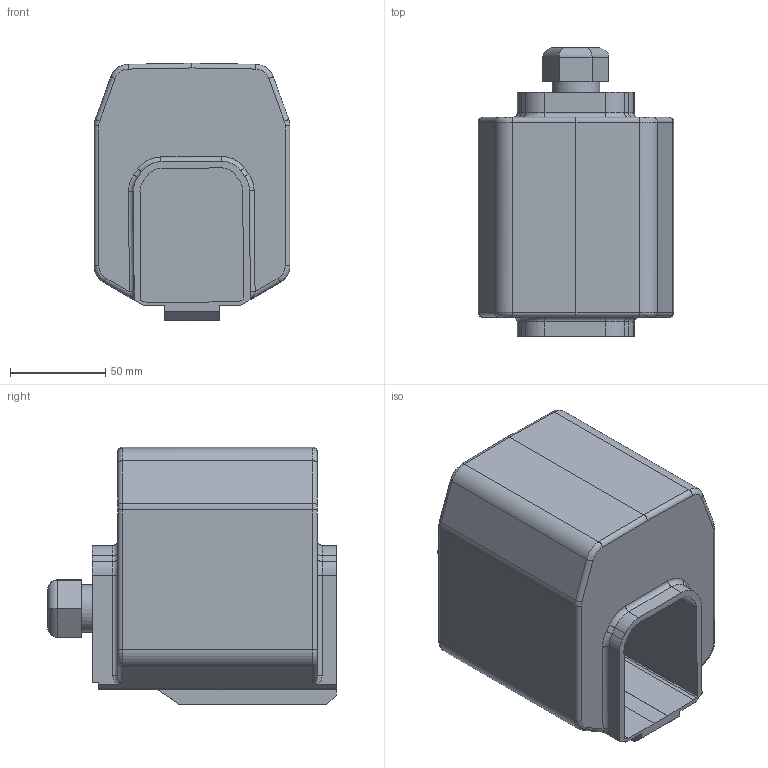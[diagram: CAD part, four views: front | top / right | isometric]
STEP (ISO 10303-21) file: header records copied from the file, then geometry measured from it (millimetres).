
FILE_DESCRIPTION(/* description */ ('Unknown'),/* implementation_level */ '2;1');
FILE_NAME(/* name */ 'MI1200_Boîte en bout M25 AV_SPL',/* time_stamp */ '2018-08-14T14:39:37+02:00',/* author */ ('Unknown'),/* organization */ ('Unknown'),/* preprocessor_version */ 'ST-DEVELOPER v16.7',/* originating_system */ 'DEX',/* authorisation */ $);
FILE_SCHEMA (('AUTOMOTIVE_DESIGN {1 0 10303 214 3 1 1}'));
Length unit declared in the file: millimetre
Products named in the file (1): Boîte d'alimentation en bout simplifiée
Bounding box: 103 x 151.8 x 135.46 mm (x, y, z)
Volume: 1205526.7 mm3; surface area: 92252.7 mm2
Topology: 1 solids, 1 shells, 158 faces, 400 edges, 247 vertices
Faces by surface type: plane 68, cylinder 62, torus 16, bspline 12
Full cylindrical faces by diameter (mm): 15 x1, 25 x1
Entity records: 6247 total; most frequent: CARTESIAN_POINT 1302, DIRECTION 813, ORIENTED_EDGE 790, EDGE_CURVE 395, AXIS2_PLACEMENT_3D 285, VERTEX_POINT 246, LINE 243, VECTOR 243
